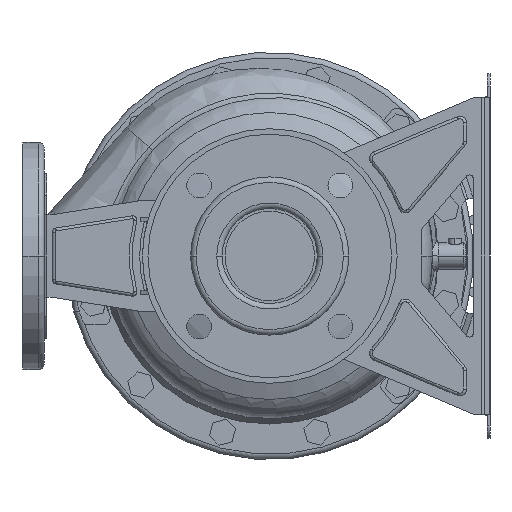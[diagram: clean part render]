
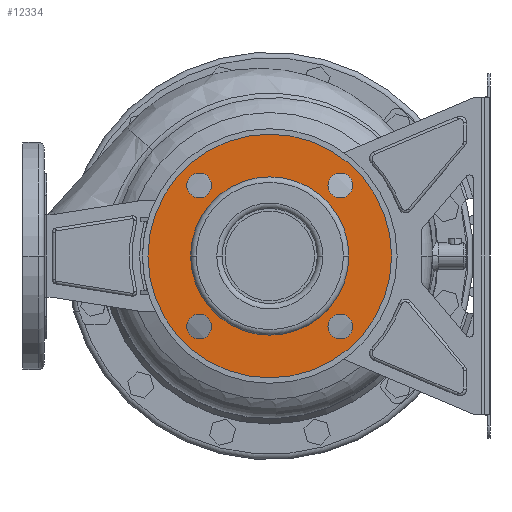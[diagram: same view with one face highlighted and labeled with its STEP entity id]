
A CAD part, left-side view. The second image highlights one B-rep face of the part: STEP entity #12334.
In plain terms, the highlighted planar face has unit normal (-1, 0, 0).
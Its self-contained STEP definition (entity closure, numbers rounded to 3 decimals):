
#11667=CARTESIAN_POINT('',(12.,0.,0.));
#11668=DIRECTION('',(-1.,0.,0.));
#11669=DIRECTION('',(0.,1.,0.));
#11670=AXIS2_PLACEMENT_3D('',#11667,#11668,#11669);
#11675=CARTESIAN_POINT('',(12.,0.,0.));
#11676=DIRECTION('',(1.,0.,0.));
#11677=DIRECTION('',(0.,1.,0.));
#11678=AXIS2_PLACEMENT_3D('',#11675,#11676,#11677);
#11683=CARTESIAN_POINT('',(12.,-51.265,51.265));
#11684=DIRECTION('',(1.,0.,0.));
#11685=DIRECTION('',(0.,1.,0.));
#11686=AXIS2_PLACEMENT_3D('',#11683,#11684,#11685);
#11691=CARTESIAN_POINT('',(12.,-51.265,51.265));
#11692=DIRECTION('',(1.,0.,0.));
#11693=DIRECTION('',(0.,-1.,0.));
#11694=AXIS2_PLACEMENT_3D('',#11691,#11692,#11693);
#11699=CARTESIAN_POINT('',(12.,-51.265,-51.265));
#11700=DIRECTION('',(1.,0.,0.));
#11701=DIRECTION('',(0.,0.,1.));
#11702=AXIS2_PLACEMENT_3D('',#11699,#11700,#11701);
#11707=CARTESIAN_POINT('',(12.,-51.265,-51.265));
#11708=DIRECTION('',(1.,0.,0.));
#11709=DIRECTION('',(0.,0.,-1.));
#11710=AXIS2_PLACEMENT_3D('',#11707,#11708,#11709);
#11715=CARTESIAN_POINT('',(12.,51.265,-51.265));
#11716=DIRECTION('',(1.,0.,0.));
#11717=DIRECTION('',(0.,-1.,0.));
#11718=AXIS2_PLACEMENT_3D('',#11715,#11716,#11717);
#11723=CARTESIAN_POINT('',(12.,51.265,-51.265));
#11724=DIRECTION('',(1.,0.,0.));
#11725=DIRECTION('',(0.,1.,0.));
#11726=AXIS2_PLACEMENT_3D('',#11723,#11724,#11725);
#11731=CARTESIAN_POINT('',(12.,51.265,51.265));
#11732=DIRECTION('',(1.,0.,0.));
#11733=DIRECTION('',(0.,0.,-1.));
#11734=AXIS2_PLACEMENT_3D('',#11731,#11732,#11733);
#11739=CARTESIAN_POINT('',(12.,51.265,51.265));
#11740=DIRECTION('',(1.,0.,0.));
#11741=DIRECTION('',(0.,0.,1.));
#11742=AXIS2_PLACEMENT_3D('',#11739,#11740,#11741);
#11747=CARTESIAN_POINT('',(12.,0.,0.));
#11748=DIRECTION('',(1.,0.,0.));
#11749=DIRECTION('',(0.,1.,0.));
#11750=AXIS2_PLACEMENT_3D('',#11747,#11748,#11749);
#11769=CARTESIAN_POINT('',(12.,0.,0.));
#11770=DIRECTION('',(-1.,0.,0.));
#11771=DIRECTION('',(0.,1.,0.));
#11772=AXIS2_PLACEMENT_3D('',#11769,#11770,#11771);
#11934=CARTESIAN_POINT('',(12.,88.5,0.));
#11936=VERTEX_POINT('',#11934);
#11937=CARTESIAN_POINT('',(12.,57.5,0.));
#11939=VERTEX_POINT('',#11937);
#11966=CARTESIAN_POINT('',(12.,-88.5,0.));
#11968=VERTEX_POINT('',#11966);
#11969=CARTESIAN_POINT('',(12.,-57.5,0.));
#11971=VERTEX_POINT('',#11969);
#11981=CARTESIAN_POINT('',(12.,-42.265,51.265));
#11982=CARTESIAN_POINT('',(12.,-60.265,51.265));
#11983=VERTEX_POINT('',#11981);
#11984=VERTEX_POINT('',#11982);
#11989=CARTESIAN_POINT('',(12.,-51.265,-42.265));
#11990=CARTESIAN_POINT('',(12.,-51.265,-60.265));
#11991=VERTEX_POINT('',#11989);
#11992=VERTEX_POINT('',#11990);
#11997=CARTESIAN_POINT('',(12.,42.265,-51.265));
#11998=CARTESIAN_POINT('',(12.,60.265,-51.265));
#11999=VERTEX_POINT('',#11997);
#12000=VERTEX_POINT('',#11998);
#12005=CARTESIAN_POINT('',(12.,51.265,42.265));
#12006=CARTESIAN_POINT('',(12.,51.265,60.265));
#12007=VERTEX_POINT('',#12005);
#12008=VERTEX_POINT('',#12006);
#12295=CARTESIAN_POINT('',(12.,0.,0.));
#12296=DIRECTION('',(1.,0.,0.));
#12297=DIRECTION('',(0.,-1.,0.));
#12298=AXIS2_PLACEMENT_3D('',#12295,#12296,#12297);
#12299=PLANE('',#12298);
#12300=ORIENTED_EDGE('',*,*,#12288,.F.);
#12301=ORIENTED_EDGE('',*,*,#12277,.T.);
#12302=EDGE_LOOP('',(#12300,#12301));
#12303=FACE_OUTER_BOUND('',#12302,.F.);
#12305=ORIENTED_EDGE('',*,*,#12304,.F.);
#12307=ORIENTED_EDGE('',*,*,#12306,.T.);
#12308=EDGE_LOOP('',(#12305,#12307));
#12309=FACE_BOUND('',#12308,.F.);
#12311=ORIENTED_EDGE('',*,*,#12310,.F.);
#12313=ORIENTED_EDGE('',*,*,#12312,.F.);
#12314=EDGE_LOOP('',(#12311,#12313));
#12315=FACE_BOUND('',#12314,.F.);
#12317=ORIENTED_EDGE('',*,*,#12316,.F.);
#12319=ORIENTED_EDGE('',*,*,#12318,.F.);
#12320=EDGE_LOOP('',(#12317,#12319));
#12321=FACE_BOUND('',#12320,.F.);
#12323=ORIENTED_EDGE('',*,*,#12322,.F.);
#12325=ORIENTED_EDGE('',*,*,#12324,.F.);
#12326=EDGE_LOOP('',(#12323,#12325));
#12327=FACE_BOUND('',#12326,.F.);
#12329=ORIENTED_EDGE('',*,*,#12328,.F.);
#12331=ORIENTED_EDGE('',*,*,#12330,.F.);
#12332=EDGE_LOOP('',(#12329,#12331));
#12333=FACE_BOUND('',#12332,.F.);
#11671=CIRCLE('',#11670,88.5);
#11679=CIRCLE('',#11678,88.5);
#11687=CIRCLE('',#11686,9.);
#11695=CIRCLE('',#11694,9.);
#11703=CIRCLE('',#11702,9.);
#11711=CIRCLE('',#11710,9.);
#11719=CIRCLE('',#11718,9.);
#11727=CIRCLE('',#11726,9.);
#11735=CIRCLE('',#11734,9.);
#11743=CIRCLE('',#11742,9.);
#11751=CIRCLE('',#11750,57.5);
#11773=CIRCLE('',#11772,57.5);
#12277=EDGE_CURVE('',#11936,#11968,#11679,.T.);
#12288=EDGE_CURVE('',#11936,#11968,#11671,.T.);
#12304=EDGE_CURVE('',#11939,#11971,#11751,.T.);
#12306=EDGE_CURVE('',#11939,#11971,#11773,.T.);
#12310=EDGE_CURVE('',#11983,#11984,#11687,.T.);
#12312=EDGE_CURVE('',#11984,#11983,#11695,.T.);
#12316=EDGE_CURVE('',#11991,#11992,#11703,.T.);
#12318=EDGE_CURVE('',#11992,#11991,#11711,.T.);
#12322=EDGE_CURVE('',#11999,#12000,#11719,.T.);
#12324=EDGE_CURVE('',#12000,#11999,#11727,.T.);
#12328=EDGE_CURVE('',#12007,#12008,#11735,.T.);
#12330=EDGE_CURVE('',#12008,#12007,#11743,.T.);
#12334=ADVANCED_FACE('',(#12303,#12309,#12315,#12321,#12327,#12333),#12299,.F.);
